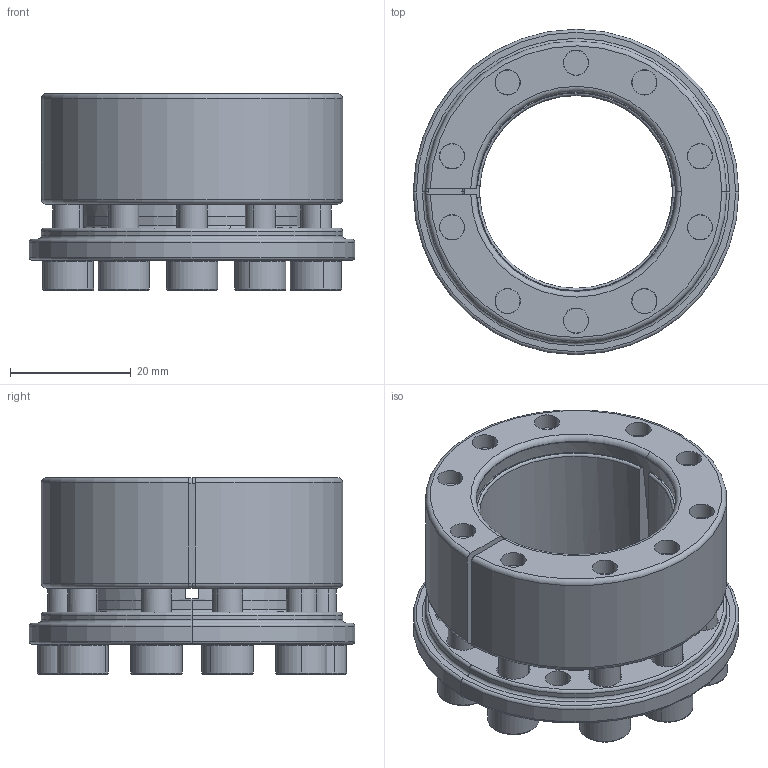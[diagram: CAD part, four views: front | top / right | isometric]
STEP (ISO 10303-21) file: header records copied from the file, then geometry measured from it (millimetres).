
FILE_DESCRIPTION (( 'STEP AP203' ), '1' );
FILE_NAME ('SAPL-A-32-50.STEP', '2013-07-22T09:45:49', ( 'MYCOM' ), ( '' ), 'SwSTEP 2.0', 'SolidWorks 2012', '' );
FILE_SCHEMA (( 'CONFIG_CONTROL_DESIGN' ));
Length unit declared in the file: millimetre
Products named in the file (1): SAPL-A-32-50
Bounding box: 54 x 54 x 32.6 mm (x, y, z)
Volume: 31282.1 mm3; surface area: 16308.7 mm2
Topology: 1 solids, 1 shells, 450 faces, 1120 edges, 671 vertices
Faces by surface type: plane 165, cylinder 118, torus 86, cone 81
Entity records: 13655 total; most frequent: CARTESIAN_POINT 2621, DIRECTION 2505, ORIENTED_EDGE 2200, EDGE_CURVE 1100, AXIS2_PLACEMENT_3D 1030, VERTEX_POINT 671, CIRCLE 579, EDGE_LOOP 501
